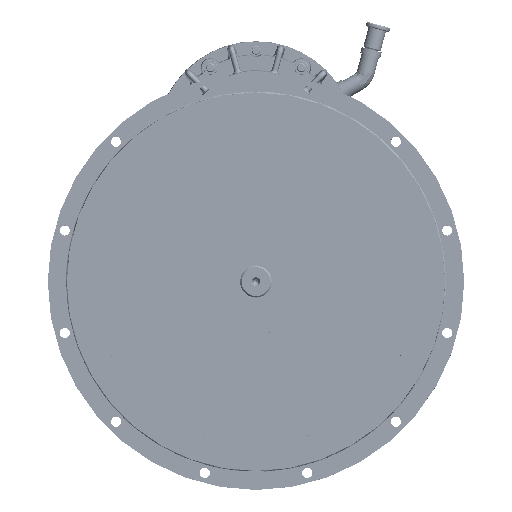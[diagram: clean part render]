
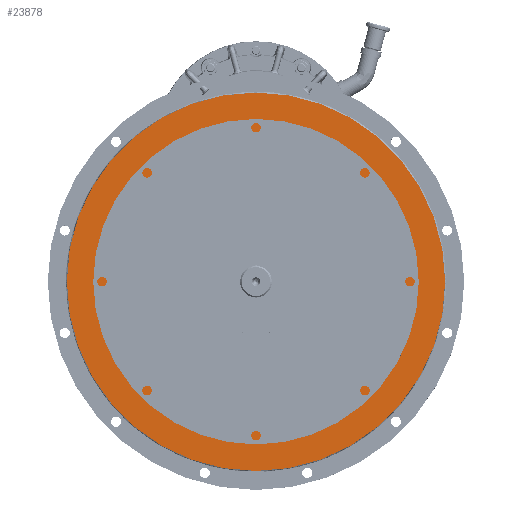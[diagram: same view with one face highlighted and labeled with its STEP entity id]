
A CAD part, top view. The second image highlights one B-rep face of the part: STEP entity #23878.
In plain terms, the highlighted planar face has unit normal (0, 0, 1).
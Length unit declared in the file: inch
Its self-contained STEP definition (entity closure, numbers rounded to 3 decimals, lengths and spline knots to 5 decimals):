
#1612 = EDGE_LOOP ( 'NONE', ( #76022, #32436 ) ) ;
#5132 = DIRECTION ( 'NONE',  ( 0., 0., -1. ) ) ;
#9290 = ORIENTED_EDGE ( 'NONE', *, *, #99826, .T. ) ;
#9301 = AXIS2_PLACEMENT_3D ( 'NONE', #18864, #100947, #128678 ) ;
#11379 = EDGE_CURVE ( 'NONE', #31434, #33503, #24217, .T. ) ;
#11887 = DIRECTION ( 'NONE',  ( 0., 0., 1. ) ) ;
#13352 = EDGE_CURVE ( 'NONE', #103110, #94725, #107811, .T. ) ;
#14620 = AXIS2_PLACEMENT_3D ( 'NONE', #87091, #22792, #97839 ) ;
#17918 = EDGE_CURVE ( 'NONE', #94725, #103110, #43289, .T. ) ;
#18257 = DIRECTION ( 'NONE',  ( -1., 0., 0. ) ) ;
#18405 = CARTESIAN_POINT ( 'NONE',  ( -2.2539, -2.2539, 0.25 ) ) ;
#18864 = CARTESIAN_POINT ( 'NONE',  ( 2.2539, -2.2539, 0.25 ) ) ;
#19184 = FACE_BOUND ( 'NONE', #24164, .T. ) ;
#19915 = EDGE_LOOP ( 'NONE', ( #68722, #76785 ) ) ;
#20105 = EDGE_CURVE ( 'NONE', #35815, #131556, #126935, .T. ) ;
#22792 = DIRECTION ( 'NONE',  ( 0., 0., 1. ) ) ;
#23040 = DIRECTION ( 'NONE',  ( 0., 0., 1. ) ) ;
#23611 = AXIS2_PLACEMENT_3D ( 'NONE', #63187, #96934, #32607 ) ;
#23878 = ADVANCED_FACE ( 'NONE', ( #133257, #108127, #76285, #47679, #19184, #129920 ), #43412, .F. ) ;
#24164 = EDGE_LOOP ( 'NONE', ( #51637, #9290 ) ) ;
#24217 = CIRCLE ( 'NONE', #59540, 8.0625 ) ;
#24503 = DIRECTION ( 'NONE',  ( 0., 0., -1. ) ) ;
#25283 = CIRCLE ( 'NONE', #14620, 0.3905 ) ;
#25709 = CARTESIAN_POINT ( 'NONE',  ( 0., 0., 0.25 ) ) ;
#29087 = DIRECTION ( 'NONE',  ( -1., 0., 0. ) ) ;
#30379 = CARTESIAN_POINT ( 'NONE',  ( -2.6444, 2.2539, 0.25 ) ) ;
#31434 = VERTEX_POINT ( 'NONE', #38923 ) ;
#32001 = CARTESIAN_POINT ( 'NONE',  ( -8.0625, 0., 0.25 ) ) ;
#32436 = ORIENTED_EDGE ( 'NONE', *, *, #59241, .F. ) ;
#32607 = DIRECTION ( 'NONE',  ( -1., 0., 0. ) ) ;
#33503 = VERTEX_POINT ( 'NONE', #32001 ) ;
#33575 = EDGE_CURVE ( 'NONE', #72543, #36228, #107827, .T. ) ;
#34327 = DIRECTION ( 'NONE',  ( 0., 0., 1. ) ) ;
#35815 = VERTEX_POINT ( 'NONE', #46202 ) ;
#36228 = VERTEX_POINT ( 'NONE', #110757 ) ;
#37208 = DIRECTION ( 'NONE',  ( 0., 0., 1. ) ) ;
#38923 = CARTESIAN_POINT ( 'NONE',  ( 8.0625, 0., 0.25 ) ) ;
#39011 = CIRCLE ( 'NONE', #116541, 0.3905 ) ;
#40698 = CARTESIAN_POINT ( 'NONE',  ( 2.6444, 2.2539, 0.25 ) ) ;
#43096 = DIRECTION ( 'NONE',  ( 0., 0., -1. ) ) ;
#43289 = CIRCLE ( 'NONE', #61610, 0.3905 ) ;
#43412 = PLANE ( 'NONE',  #23611 ) ;
#46202 = CARTESIAN_POINT ( 'NONE',  ( -2.5, 0., 0.25 ) ) ;
#47679 = FACE_BOUND ( 'NONE', #106767, .T. ) ;
#48894 = VERTEX_POINT ( 'NONE', #112483 ) ;
#51637 = ORIENTED_EDGE ( 'NONE', *, *, #20105, .T. ) ;
#51802 = DIRECTION ( 'NONE',  ( 0., 0., -1. ) ) ;
#54520 = AXIS2_PLACEMENT_3D ( 'NONE', #69428, #5132, #80193 ) ;
#55243 = CIRCLE ( 'NONE', #124948, 8.0625 ) ;
#59241 = EDGE_CURVE ( 'NONE', #104078, #48894, #77237, .T. ) ;
#59540 = AXIS2_PLACEMENT_3D ( 'NONE', #114378, #24503, #74657 ) ;
#61106 = VERTEX_POINT ( 'NONE', #126332 ) ;
#61610 = AXIS2_PLACEMENT_3D ( 'NONE', #108685, #23040, #18257 ) ;
#62163 = DIRECTION ( 'NONE',  ( 0., 0., 1. ) ) ;
#62637 = ORIENTED_EDGE ( 'NONE', *, *, #136463, .F. ) ;
#63187 = CARTESIAN_POINT ( 'NONE',  ( 0., 0., 0.25 ) ) ;
#68722 = ORIENTED_EDGE ( 'NONE', *, *, #134518, .F. ) ;
#69428 = CARTESIAN_POINT ( 'NONE',  ( 0., 0., 0.25 ) ) ;
#72543 = VERTEX_POINT ( 'NONE', #40698 ) ;
#73680 = EDGE_CURVE ( 'NONE', #36228, #72543, #25283, .T. ) ;
#74164 = AXIS2_PLACEMENT_3D ( 'NONE', #25709, #43096, #115129 ) ;
#74657 = DIRECTION ( 'NONE',  ( -1., 0., 0. ) ) ;
#76022 = ORIENTED_EDGE ( 'NONE', *, *, #106829, .F. ) ;
#76125 = CARTESIAN_POINT ( 'NONE',  ( -2.2539, 2.2539, 0.25 ) ) ;
#76285 = FACE_BOUND ( 'NONE', #118427, .T. ) ;
#76785 = ORIENTED_EDGE ( 'NONE', *, *, #11379, .F. ) ;
#77237 = CIRCLE ( 'NONE', #104168, 0.3905 ) ;
#78872 = CIRCLE ( 'NONE', #125983, 0.3905 ) ;
#80193 = DIRECTION ( 'NONE',  ( -1., 0., 0. ) ) ;
#80203 = AXIS2_PLACEMENT_3D ( 'NONE', #126396, #62163, #137190 ) ;
#82078 = AXIS2_PLACEMENT_3D ( 'NONE', #98645, #34327, #109390 ) ;
#84405 = CIRCLE ( 'NONE', #54520, 2.5 ) ;
#86162 = ORIENTED_EDGE ( 'NONE', *, *, #33575, .F. ) ;
#86900 = DIRECTION ( 'NONE',  ( -1., 0., 0. ) ) ;
#87091 = CARTESIAN_POINT ( 'NONE',  ( 2.2539, 2.2539, 0.25 ) ) ;
#87934 = CARTESIAN_POINT ( 'NONE',  ( 2.5, 0., 0.25 ) ) ;
#88936 = EDGE_CURVE ( 'NONE', #127131, #61106, #39011, .T. ) ;
#93462 = DIRECTION ( 'NONE',  ( 0., 0., 1. ) ) ;
#94725 = VERTEX_POINT ( 'NONE', #134889 ) ;
#96934 = DIRECTION ( 'NONE',  ( 0., 0., -1. ) ) ;
#97839 = DIRECTION ( 'NONE',  ( -1., 0., 0. ) ) ;
#98645 = CARTESIAN_POINT ( 'NONE',  ( 2.2539, 2.2539, 0.25 ) ) ;
#99507 = ORIENTED_EDGE ( 'NONE', *, *, #17918, .F. ) ;
#99826 = EDGE_CURVE ( 'NONE', #131556, #35815, #84405, .T. ) ;
#100947 = DIRECTION ( 'NONE',  ( 0., 0., 1. ) ) ;
#101525 = CARTESIAN_POINT ( 'NONE',  ( -2.2539, -2.2539, 0.25 ) ) ;
#103110 = VERTEX_POINT ( 'NONE', #110104 ) ;
#104078 = VERTEX_POINT ( 'NONE', #121681 ) ;
#104168 = AXIS2_PLACEMENT_3D ( 'NONE', #18405, #93462, #29087 ) ;
#106767 = EDGE_LOOP ( 'NONE', ( #119250, #86162 ) ) ;
#106829 = EDGE_CURVE ( 'NONE', #48894, #104078, #78872, .T. ) ;
#107811 = CIRCLE ( 'NONE', #9301, 0.3905 ) ;
#107827 = CIRCLE ( 'NONE', #82078, 0.3905 ) ;
#108127 = FACE_BOUND ( 'NONE', #1612, .T. ) ;
#108685 = CARTESIAN_POINT ( 'NONE',  ( 2.2539, -2.2539, 0.25 ) ) ;
#109390 = DIRECTION ( 'NONE',  ( -1., 0., 0. ) ) ;
#110104 = CARTESIAN_POINT ( 'NONE',  ( 2.6444, -2.2539, 0.25 ) ) ;
#110757 = CARTESIAN_POINT ( 'NONE',  ( 1.8634, 2.2539, 0.25 ) ) ;
#112265 = DIRECTION ( 'NONE',  ( -1., 0., 0. ) ) ;
#112483 = CARTESIAN_POINT ( 'NONE',  ( -2.6444, -2.2539, 0.25 ) ) ;
#114378 = CARTESIAN_POINT ( 'NONE',  ( 0., 0., 0.25 ) ) ;
#115129 = DIRECTION ( 'NONE',  ( -1., 0., 0. ) ) ;
#116030 = CARTESIAN_POINT ( 'NONE',  ( 0., 0., 0.25 ) ) ;
#116541 = AXIS2_PLACEMENT_3D ( 'NONE', #76125, #11887, #86900 ) ;
#118427 = EDGE_LOOP ( 'NONE', ( #137771, #62637 ) ) ;
#119073 = CIRCLE ( 'NONE', #80203, 0.3905 ) ;
#119250 = ORIENTED_EDGE ( 'NONE', *, *, #73680, .F. ) ;
#121681 = CARTESIAN_POINT ( 'NONE',  ( -1.8634, -2.2539, 0.25 ) ) ;
#124948 = AXIS2_PLACEMENT_3D ( 'NONE', #116030, #51802, #126836 ) ;
#125983 = AXIS2_PLACEMENT_3D ( 'NONE', #101525, #37208, #112265 ) ;
#126332 = CARTESIAN_POINT ( 'NONE',  ( -1.8634, 2.2539, 0.25 ) ) ;
#126396 = CARTESIAN_POINT ( 'NONE',  ( -2.2539, 2.2539, 0.25 ) ) ;
#126836 = DIRECTION ( 'NONE',  ( -1., 0., 0. ) ) ;
#126935 = CIRCLE ( 'NONE', #74164, 2.5 ) ;
#127131 = VERTEX_POINT ( 'NONE', #30379 ) ;
#128678 = DIRECTION ( 'NONE',  ( -1., 0., 0. ) ) ;
#128769 = ORIENTED_EDGE ( 'NONE', *, *, #13352, .F. ) ;
#129920 = FACE_OUTER_BOUND ( 'NONE', #19915, .T. ) ;
#131556 = VERTEX_POINT ( 'NONE', #87934 ) ;
#133257 = FACE_BOUND ( 'NONE', #134531, .T. ) ;
#134518 = EDGE_CURVE ( 'NONE', #33503, #31434, #55243, .T. ) ;
#134531 = EDGE_LOOP ( 'NONE', ( #99507, #128769 ) ) ;
#134889 = CARTESIAN_POINT ( 'NONE',  ( 1.8634, -2.2539, 0.25 ) ) ;
#136463 = EDGE_CURVE ( 'NONE', #61106, #127131, #119073, .T. ) ;
#137190 = DIRECTION ( 'NONE',  ( -1., 0., 0. ) ) ;
#137771 = ORIENTED_EDGE ( 'NONE', *, *, #88936, .F. ) ;
